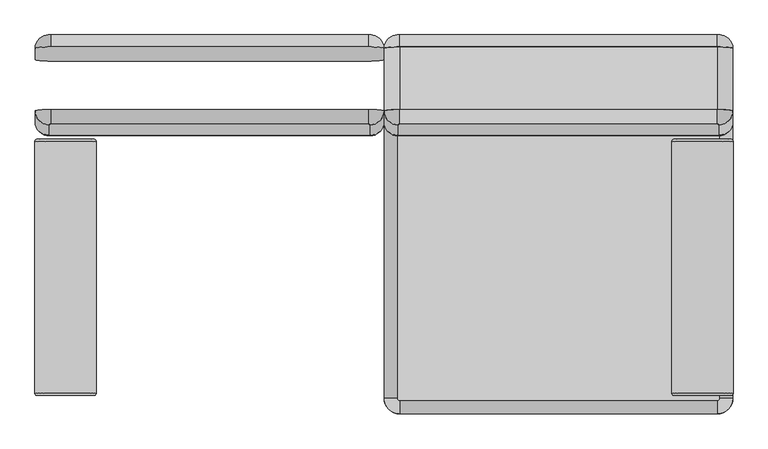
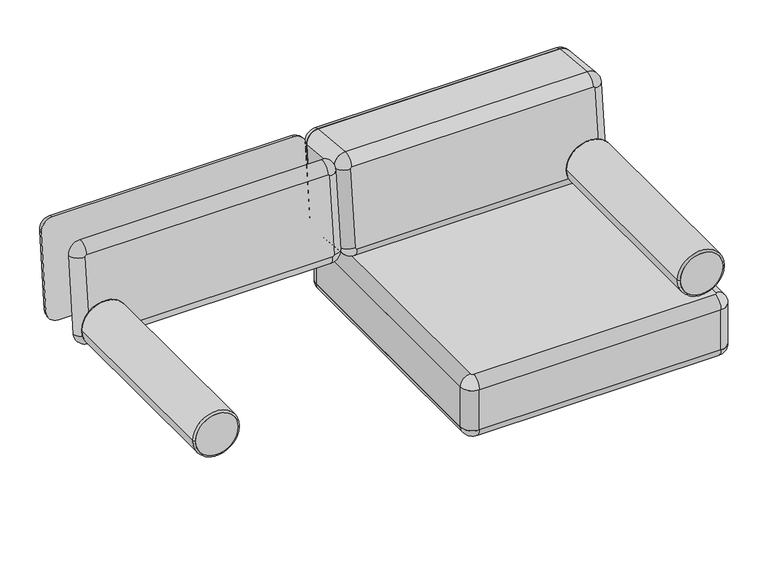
"""IFC4 building model written with IfcOpenShell, lengths in millimetres: furniture geometry, Sofa_Bensen_Lite_LIT200IT : Sofa_Bensen_Lite_LIT200IT."""

from ifc_helpers import new_model, si_unit, point, frame, frame_2d, origin, place, context, project, spatial, polyline, circle_curve, ellipse_curve, trimmed, segment, composite_curve, outline, extrude, source, transform, mapped, element, save
from ifc_brep_helpers import plane_surface, cylinder_surface, revolved_surface, advanced_brep


def furniture_adbb1229(model_context):
    return source(origin(), model_context, "Body", "SolidModel", [
        advanced_brep(
        [(770.4022766, -440.0, 513.8049987), (644.4022766, -440.0, 513.8049987), (644.4022766, 120.0, 513.8049987), (770.4022766, 120.0, 513.8049987), (644.4022766, -445.0, 513.8049987), (639.4022766, -440.0, 513.8049987), (775.4022766, -440.0, 513.8049987), (770.4022766, -445.0, 513.8049987), (639.4022766, 120.0, 513.8049987), (775.4022766, 120.0, 513.8049987), (644.4022766, 125.0, 513.8049987), (770.4022766, 125.0, 513.8049987)],
        [
            (0, 1, circle_curve(frame((707.4022766, -440.0, 513.8049987), z_axis=(0.0, -1.0, 0.0), x_axis=(-1.0, 0.0, 0.0)), 63.0)),
            (1, 0, circle_curve(frame((707.4022766, -440.0, 513.8049987), z_axis=(0.0, -1.0, 0.0), x_axis=(1.0, 0.0, 0.0)), 63.0)),
            (2, 3, circle_curve(frame((707.4022766, 120.0, 513.8049987), z_axis=(0.0, 1.0, 0.0), x_axis=(-1.0, 0.0, 0.0)), 63.0)),
            (3, 2, circle_curve(frame((707.4022766, 120.0, 513.8049987), z_axis=(0.0, 1.0, 0.0), x_axis=(1.0, 0.0, 0.0)), 63.0)),
            (4, 5, circle_curve(frame((644.4022766, -440.0, 513.8049987), z_axis=(0.0, 0.0, -1.0), x_axis=(0.0, -1.0, 0.0)), 5.0)),
            (5, 6, circle_curve(frame((707.4022766, -440.0, 513.8049987), z_axis=(0.0, -1.0, 0.0), x_axis=(1.0, 0.0, 0.0)), 68.0)),
            (6, 7, circle_curve(frame((770.4022766, -440.0, 513.8049987), z_axis=(0.0, 0.0, -1.0), x_axis=(0.0, -1.0, 0.0)), 5.0)),
            (7, 4, circle_curve(frame((707.4022766, -445.0, 513.8049987), z_axis=(0.0, 1.0, 0.0), x_axis=(1.0, 0.0, 0.0)), 63.0)),
            (7, 0),
            (1, 4),
            (6, 5, circle_curve(frame((707.4022766, -440.0, 513.8049987), z_axis=(0.0, -1.0, 0.0), x_axis=(-1.0, 0.0, 0.0)), 68.0)),
            (4, 7, circle_curve(frame((707.4022766, -445.0, 513.8049987), z_axis=(0.0, 1.0, 0.0), x_axis=(-1.0, 0.0, 0.0)), 63.0)),
            (5, 8),
            (8, 9, circle_curve(frame((707.4022766, 120.0, 513.8049987), z_axis=(0.0, -1.0, 0.0), x_axis=(-1.0, 0.0, 0.0)), 68.0)),
            (9, 6),
            (9, 8, circle_curve(frame((707.4022766, 120.0, 513.8049987), z_axis=(0.0, -1.0, 0.0), x_axis=(-1.0, 0.0, 0.0)), 68.0)),
            (10, 2),
            (3, 11),
            (11, 10, circle_curve(frame((707.4022766, 125.0, 513.8049987), z_axis=(0.0, 1.0, 0.0), x_axis=(1.0, 0.0, 0.0)), 63.0)),
            (11, 9, circle_curve(frame((770.4022766, 120.0, 513.8049987), z_axis=(0.0, 0.0, -1.0), x_axis=(0.0, 1.0, 0.0)), 5.0)),
            (8, 10, circle_curve(frame((644.4022766, 120.0, 513.8049987), z_axis=(0.0, 0.0, -1.0), x_axis=(0.0, 1.0, 0.0)), 5.0)),
            (10, 11, circle_curve(frame((707.4022766, 125.0, 513.8049987), z_axis=(0.0, 1.0, 0.0), x_axis=(-1.0, 0.0, 0.0)), 63.0)),
        ],
        [
            plane_surface(frame((639.4022766, -440.0, 513.8049987), z_axis=(0.0, -1.0, 0.0), x_axis=(0.0, 0.0, 1.0))),
            plane_surface(frame((639.4022766, 120.0, 513.8049987), z_axis=(0.0, 1.0, 0.0), x_axis=(0.0, 0.0, -1.0))),
            revolved_surface(trimmed(ellipse_curve(frame((770.4022766, -440.0, 513.8049987), z_axis=(0.0, 0.0, -1.0), x_axis=(0.0, -1.0, 0.0)), 5.0, 5.0), [point((775.4022766, -440.0, 513.8049987))], [point((770.4022766, -445.0, 513.8049987))], True, "CARTESIAN"), (707.4022766, -155.0, 513.8049987), (0.0, -1.0, 0.0)),
            revolved_surface(polyline([(770.4022766, -445.0, 513.8049987), (770.4022766, -440.0, 513.8049987)]), (707.4022766, -155.0, 513.8049987), (0.0, -1.0, 0.0)),
            revolved_surface(trimmed(ellipse_curve(frame((644.4022766, -440.0, 513.8049987), z_axis=(0.0, 0.0, 1.0), x_axis=(0.0, -1.0, 0.0)), 5.0, 5.0), [point((639.4022766, -440.0, 513.8049987))], [point((644.4022766, -445.0, 513.8049987))], True, "CARTESIAN"), (707.4022766, -155.0, 513.8049987), (0.0, -1.0, 0.0)),
            revolved_surface(polyline([(644.4022766, -445.0, 513.8049987), (644.4022766, -440.0, 513.8049987)]), (707.4022766, -155.0, 513.8049987), (0.0, -1.0, 0.0)),
            cylinder_surface(frame((707.4022766, 120.0, 513.8049987), z_axis=(0.0, -1.0, 0.0), x_axis=(-1.0, 0.0, 0.0)), 68.0),
            revolved_surface(polyline([(770.4022766, 120.0, 513.8049987), (770.4022766, 125.0, 513.8049987)]), (707.4022766, -165.0, 513.8049987), (0.0, -1.0, 0.0)),
            revolved_surface(trimmed(ellipse_curve(frame((770.4022766, 120.0, 513.8049987), z_axis=(0.0, 0.0, -1.0), x_axis=(0.0, 1.0, 0.0)), 5.0, 5.0), [point((770.4022766, 125.0, 513.8049987))], [point((775.4022766, 120.0, 513.8049987))], True, "CARTESIAN"), (707.4022766, -165.0, 513.8049987), (0.0, -1.0, 0.0)),
            revolved_surface(polyline([(644.4022766, 120.0, 513.8049987), (644.4022766, 125.0, 513.8049987)]), (707.4022766, -165.0, 513.8049987), (0.0, -1.0, 0.0)),
            revolved_surface(trimmed(ellipse_curve(frame((644.4022766, 120.0, 513.8049987), z_axis=(0.0, 0.0, 1.0), x_axis=(0.0, 1.0, 0.0)), 5.0, 5.0), [point((644.4022766, 125.0, 513.8049987))], [point((639.4022766, 120.0, 513.8049987))], True, "CARTESIAN"), (707.4022766, -165.0, 513.8049987), (0.0, -1.0, 0.0)),
        ],
        [
            (0, [[1, 2]]),
            (1, [[3, 4]]),
            (2, [[5, 6, 7, 8]]),
            (3, [[9, -2, 10, -8]]),
            (4, [[11, -5, 12, -7]]),
            (5, [[-12, -10, -1, -9]]),
            (6, [[-6, 13, 14, 15]]),
            (6, [[16, -13, -11, -15]]),
            (7, [[17, -4, 18, 19]]),
            (8, [[20, -14, 21, -19]]),
            (9, [[-3, -17, 22, -18]]),
            (10, [[-22, -21, -16, -20]]),
        ],
    ),
        extrude(outline(composite_curve([segment(trimmed(circle_curve(frame_2d((513.8049987, 707.4022766)), 63.0), [point((513.8049987, 770.4022766))], [point((513.8049987, 644.4022766))], False, "CARTESIAN"), True, "CONTINUOUS"), segment(trimmed(circle_curve(frame_2d((513.8049987, 707.4022766)), 63.0), [point((513.8049987, 644.4022766))], [point((513.8049987, 770.4022766))], False, "CARTESIAN"), True, "CONTINUOUS")], self_intersect=False)), frame((0.0, 120.0, 0.0), z_axis=(0.0, 1.0, 0.0), x_axis=(0.0, 0.0, 1.0)), (0.0, 0.0, 1.0), 5.0),
        extrude(outline(composite_curve([segment(trimmed(circle_curve(frame_2d((513.8049987, 707.4022766)), 63.0), [point((513.8049987, 644.4022766))], [point((513.8049987, 770.4022766))], False, "CARTESIAN"), True, "CONTINUOUS"), segment(trimmed(circle_curve(frame_2d((513.8049987, 707.4022766)), 63.0), [point((513.8049987, 770.4022766))], [point((513.8049987, 644.4022766))], False, "CARTESIAN"), True, "CONTINUOUS")], self_intersect=False)), frame((0.0, -445.0, 0.0), z_axis=(0.0, 1.0, 0.0), x_axis=(0.0, 0.0, 1.0)), (0.0, 0.0, 1.0), 5.0),
        advanced_brep(
        [(-770.4022766, -440.0, 513.8049987), (-644.4022766, -440.0, 513.8049987), (-644.4022766, 120.0, 513.8049987), (-770.4022766, 120.0, 513.8049987), (-644.4022766, -445.0, 513.8049987), (-770.4022766, -445.0, 513.8049987), (-775.4022766, -440.0, 513.8049987), (-639.4022766, -440.0, 513.8049987), (-775.4022766, 120.0, 513.8049987), (-639.4022766, 120.0, 513.8049987), (-644.4022766, 125.0, 513.8049987), (-770.4022766, 125.0, 513.8049987)],
        [
            (0, 1, circle_curve(frame((-707.4022766, -440.0, 513.8049987), z_axis=(0.0, -1.0, 0.0), x_axis=(-1.0, 0.0, 0.0)), 63.0)),
            (1, 0, circle_curve(frame((-707.4022766, -440.0, 513.8049987), z_axis=(0.0, -1.0, 0.0), x_axis=(1.0, 0.0, 0.0)), 63.0)),
            (2, 3, circle_curve(frame((-707.4022766, 120.0, 513.8049987), z_axis=(0.0, 1.0, 0.0), x_axis=(-1.0, 0.0, 0.0)), 63.0)),
            (3, 2, circle_curve(frame((-707.4022766, 120.0, 513.8049987), z_axis=(0.0, 1.0, 0.0), x_axis=(1.0, 0.0, 0.0)), 63.0)),
            (4, 5, circle_curve(frame((-707.4022766, -445.0, 513.8049987), z_axis=(0.0, 1.0, 0.0), x_axis=(-1.0, 0.0, 0.0)), 63.0)),
            (5, 6, circle_curve(frame((-770.4022766, -440.0, 513.8049987), z_axis=(0.0, 0.0, -1.0), x_axis=(0.0, -1.0, 0.0)), 5.0)),
            (6, 7, circle_curve(frame((-707.4022766, -440.0, 513.8049987), z_axis=(0.0, -1.0, 0.0), x_axis=(-1.0, 0.0, 0.0)), 68.0)),
            (7, 4, circle_curve(frame((-644.4022766, -440.0, 513.8049987), z_axis=(0.0, 0.0, -1.0), x_axis=(0.0, -1.0, 0.0)), 5.0)),
            (4, 1),
            (0, 5),
            (5, 4, circle_curve(frame((-707.4022766, -445.0, 513.8049987), z_axis=(0.0, 1.0, 0.0), x_axis=(1.0, 0.0, 0.0)), 63.0)),
            (7, 6, circle_curve(frame((-707.4022766, -440.0, 513.8049987), z_axis=(0.0, -1.0, 0.0), x_axis=(1.0, 0.0, 0.0)), 68.0)),
            (6, 8),
            (8, 9, circle_curve(frame((-707.4022766, 120.0, 513.8049987), z_axis=(0.0, -1.0, 0.0), x_axis=(1.0, 0.0, 0.0)), 68.0)),
            (9, 7),
            (9, 8, circle_curve(frame((-707.4022766, 120.0, 513.8049987), z_axis=(0.0, -1.0, 0.0), x_axis=(1.0, 0.0, 0.0)), 68.0)),
            (10, 11, circle_curve(frame((-707.4022766, 125.0, 513.8049987), z_axis=(0.0, 1.0, 0.0), x_axis=(-1.0, 0.0, 0.0)), 63.0)),
            (11, 3),
            (2, 10),
            (10, 9, circle_curve(frame((-644.4022766, 120.0, 513.8049987), z_axis=(0.0, 0.0, -1.0), x_axis=(0.0, 1.0, 0.0)), 5.0)),
            (8, 11, circle_curve(frame((-770.4022766, 120.0, 513.8049987), z_axis=(0.0, 0.0, -1.0), x_axis=(0.0, 1.0, 0.0)), 5.0)),
            (11, 10, circle_curve(frame((-707.4022766, 125.0, 513.8049987), z_axis=(0.0, 1.0, 0.0), x_axis=(1.0, 0.0, 0.0)), 63.0)),
        ],
        [
            plane_surface(frame((-639.4022766, -440.0, 513.8049987), z_axis=(0.0, -1.0, 0.0), x_axis=(0.0, 0.0, 1.0))),
            plane_surface(frame((-639.4022766, 120.0, 513.8049987), z_axis=(0.0, 1.0, 0.0), x_axis=(0.0, 0.0, -1.0))),
            revolved_surface(trimmed(ellipse_curve(frame((-770.4022766, -440.0, 513.8049987), z_axis=(0.0, 0.0, 1.0), x_axis=(0.0, -1.0, 0.0)), 5.0, 5.0), [point((-775.4022766, -440.0, 513.8049987))], [point((-770.4022766, -445.0, 513.8049987))], True, "CARTESIAN"), (-707.4022766, -155.0, 513.8049987), (0.0, -1.0, 0.0)),
            revolved_surface(polyline([(-770.4022766, -445.0, 513.8049987), (-770.4022766, -440.0, 513.8049987)]), (-707.4022766, -155.0, 513.8049987), (0.0, -1.0, 0.0)),
            revolved_surface(trimmed(ellipse_curve(frame((-644.4022766, -440.0, 513.8049987), z_axis=(0.0, 0.0, -1.0), x_axis=(0.0, -1.0, 0.0)), 5.0, 5.0), [point((-639.4022766, -440.0, 513.8049987))], [point((-644.4022766, -445.0, 513.8049987))], True, "CARTESIAN"), (-707.4022766, -155.0, 513.8049987), (0.0, -1.0, 0.0)),
            revolved_surface(polyline([(-644.4022766, -445.0, 513.8049987), (-644.4022766, -440.0, 513.8049987)]), (-707.4022766, -155.0, 513.8049987), (0.0, -1.0, 0.0)),
            cylinder_surface(frame((-707.4022766, 120.0, 513.8049987), z_axis=(0.0, -1.0, 0.0), x_axis=(1.0, 0.0, 0.0)), 68.0),
            revolved_surface(polyline([(-770.4022766, 120.0, 513.8049987), (-770.4022766, 125.0, 513.8049987)]), (-707.4022766, -165.0, 513.8049987), (0.0, -1.0, 0.0)),
            revolved_surface(trimmed(ellipse_curve(frame((-770.4022766, 120.0, 513.8049987), z_axis=(0.0, 0.0, 1.0), x_axis=(0.0, 1.0, 0.0)), 5.0, 5.0), [point((-770.4022766, 125.0, 513.8049987))], [point((-775.4022766, 120.0, 513.8049987))], True, "CARTESIAN"), (-707.4022766, -165.0, 513.8049987), (0.0, -1.0, 0.0)),
            revolved_surface(polyline([(-644.4022766, 120.0, 513.8049987), (-644.4022766, 125.0, 513.8049987)]), (-707.4022766, -165.0, 513.8049987), (0.0, -1.0, 0.0)),
            revolved_surface(trimmed(ellipse_curve(frame((-644.4022766, 120.0, 513.8049987), z_axis=(0.0, 0.0, -1.0), x_axis=(0.0, 1.0, 0.0)), 5.0, 5.0), [point((-644.4022766, 125.0, 513.8049987))], [point((-639.4022766, 120.0, 513.8049987))], True, "CARTESIAN"), (-707.4022766, -165.0, 513.8049987), (0.0, -1.0, 0.0)),
        ],
        [
            (0, [[1, 2]]),
            (1, [[3, 4]]),
            (2, [[5, 6, 7, 8]]),
            (3, [[-5, 9, -1, 10]]),
            (4, [[-6, 11, -8, 12]]),
            (5, [[-10, -2, -9, -11]]),
            (6, [[13, 14, 15, -7]]),
            (6, [[-13, -12, -15, 16]]),
            (7, [[17, 18, -3, 19]]),
            (8, [[-17, 20, -14, 21]]),
            (9, [[-18, 22, -19, -4]]),
            (10, [[-21, -16, -20, -22]]),
        ],
    ),
        extrude(outline(composite_curve([segment(trimmed(circle_curve(frame_2d((513.8049987, -707.4022766)), 63.0), [point((513.8049987, -770.4022766))], [point((513.8049987, -644.4022766))], False, "CARTESIAN"), True, "CONTINUOUS"), segment(trimmed(circle_curve(frame_2d((513.8049987, -707.4022766)), 63.0), [point((513.8049987, -644.4022766))], [point((513.8049987, -770.4022766))], False, "CARTESIAN"), True, "CONTINUOUS")], self_intersect=False)), frame((0.0, 120.0, 0.0), z_axis=(0.0, 1.0, 0.0), x_axis=(0.0, 0.0, 1.0)), (0.0, 0.0, 1.0), 5.0),
        extrude(outline(composite_curve([segment(trimmed(circle_curve(frame_2d((513.8049987, -707.4022766)), 63.0), [point((513.8049987, -644.4022766))], [point((513.8049987, -770.4022766))], False, "CARTESIAN"), True, "CONTINUOUS"), segment(trimmed(circle_curve(frame_2d((513.8049987, -707.4022766)), 63.0), [point((513.8049987, -770.4022766))], [point((513.8049987, -644.4022766))], False, "CARTESIAN"), True, "CONTINUOUS")], self_intersect=False)), frame((0.0, -445.0, 0.0), z_axis=(0.0, 1.0, 0.0), x_axis=(0.0, 0.0, 1.0)), (0.0, 0.0, 1.0), 5.0),
        advanced_brep(
        [(740.0, 330.2036921, 725.306006), (35.0, 330.2036921, 725.306006), (0.0, 326.5451959, 690.4977397), (0.0, 302.5036494, 461.7577038), (35.0, 298.8451531, 426.9494374), (740.0, 298.8451531, 426.9494374), (775.0, 302.5036494, 461.7577038), (775.0, 326.5451959, 690.4977397), (745.0, 356.3808528, 687.3618858), (745.0, 332.3393062, 458.6218499), (740.0, 331.8166639, 453.6492404), (35.0, 331.8166639, 453.6492404), (30.0, 332.3393062, 458.6218499), (30.0, 356.3808528, 687.3618858), (35.0, 356.9034951, 692.3344953), (740.0, 356.9034951, 692.3344953)],
        [
            (0, 1),
            (1, 2, circle_curve(frame((35.0, 326.5451959, 690.4977397), z_axis=(0.0, -0.9945218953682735, 0.10452846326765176), x_axis=(0.0, 0.10452846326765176, 0.9945218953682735)), 35.0)),
            (2, 3),
            (3, 4, circle_curve(frame((35.0, 302.5036494, 461.7577038), z_axis=(0.0, -0.9945218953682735, 0.10452846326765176), x_axis=(-1.0, 0.0, 0.0)), 35.0)),
            (4, 5),
            (5, 6, circle_curve(frame((740.0, 302.5036494, 461.7577038), z_axis=(0.0, -0.9945218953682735, 0.10452846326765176), x_axis=(0.0, -0.10452846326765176, -0.9945218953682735)), 35.0)),
            (6, 7),
            (7, 0, circle_curve(frame((740.0, 326.5451959, 690.4977397), z_axis=(0.0, -0.9945218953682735, 0.10452846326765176), x_axis=(1.0, 0.0, 0.0)), 35.0)),
            (8, 9),
            (9, 10, circle_curve(frame((740.0, 332.3393062, 458.6218499), z_axis=(0.0, 0.9945218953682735, -0.10452846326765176), x_axis=(0.0, -0.10452846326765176, -0.9945218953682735)), 5.0)),
            (10, 11),
            (11, 12, circle_curve(frame((35.0, 332.3393062, 458.6218499), z_axis=(0.0, 0.9945218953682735, -0.10452846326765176), x_axis=(-1.0, 0.0, 0.0)), 5.0)),
            (12, 13),
            (13, 14, circle_curve(frame((35.0, 356.3808528, 687.3618858), z_axis=(0.0, 0.9945218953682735, -0.10452846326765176), x_axis=(0.0, 0.10452846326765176, 0.9945218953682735)), 5.0)),
            (14, 15),
            (15, 8, circle_curve(frame((740.0, 356.3808528, 687.3618858), z_axis=(0.0, 0.9945218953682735, -0.10452846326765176), x_axis=(1.0, 0.0, 0.0)), 5.0)),
            (15, 0, circle_curve(frame((740.0, 327.0678382, 695.4703492), z_axis=(1.0, 0.0, 0.0), x_axis=(0.0, 0.10452846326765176, 0.9945218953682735)), 30.0)),
            (7, 8, circle_curve(frame((745.0, 326.5451959, 690.4977397), z_axis=(0.0, 0.10452846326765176, 0.9945218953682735), x_axis=(1.0, 0.0, 0.0)), 30.0)),
            (14, 1, circle_curve(frame((35.0, 327.0678382, 695.4703492), z_axis=(1.0, 0.0, 0.0), x_axis=(0.0, 0.10452846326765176, 0.9945218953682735)), 30.0)),
            (13, 2, circle_curve(frame((30.0, 326.5451959, 690.4977397), z_axis=(0.0, 0.10452846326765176, 0.9945218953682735), x_axis=(-1.0, 0.0, 0.0)), 30.0)),
            (12, 3, circle_curve(frame((30.0, 302.5036494, 461.7577038), z_axis=(0.0, 0.10452846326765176, 0.9945218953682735), x_axis=(-1.0, 0.0, 0.0)), 30.0)),
            (11, 4, circle_curve(frame((35.0, 301.981007, 456.7850943), z_axis=(-1.0, 0.0, 0.0), x_axis=(0.0, -0.10452846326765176, -0.9945218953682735)), 30.0)),
            (10, 5, circle_curve(frame((740.0, 301.981007, 456.7850943), z_axis=(-1.0, 0.0, 0.0), x_axis=(0.0, -0.10452846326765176, -0.9945218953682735)), 30.0)),
            (9, 6, circle_curve(frame((745.0, 302.5036494, 461.7577038), z_axis=(0.0, -0.10452846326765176, -0.9945218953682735), x_axis=(1.0, 0.0, 0.0)), 30.0)),
        ],
        [
            plane_surface(frame((740.0, 303.0262917, 466.7303133), z_axis=(0.0, -0.9945218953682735, 0.10452846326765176), x_axis=(1.0, 0.0, 0.0))),
            plane_surface(frame((740.0, 332.8619485, 463.5944594), z_axis=(0.0, 0.9945218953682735, -0.10452846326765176), x_axis=(-1.0, 0.0, 0.0))),
            revolved_surface(trimmed(ellipse_curve(frame((745.0, 326.5451959, 690.4977397), z_axis=(0.0, 0.10452846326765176, 0.9945218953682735), x_axis=(1.0, 0.0, 0.0)), 30.0, 30.0), [point((775.0, 326.5451959, 690.4977397))], [point((745.0, 356.3808528, 687.3618858))], True, "CARTESIAN"), (740.0, 326.5451959, 690.4977397), (0.0, 0.9945218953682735, -0.10452846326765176)),
            cylinder_surface(frame((740.0, 327.0678382, 695.4703492), z_axis=(1.0, 0.0, 0.0), x_axis=(0.0, 0.10452846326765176, 0.9945218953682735)), 30.0),
            revolved_surface(trimmed(ellipse_curve(frame((35.0, 327.0678382, 695.4703492), z_axis=(-1.0, 0.0, 0.0), x_axis=(0.0, 0.10452846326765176, 0.9945218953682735)), 30.0, 30.0), [point((35.0, 330.2036921, 725.306006))], [point((35.0, 356.9034951, 692.3344953))], True, "CARTESIAN"), (35.0, 326.5451959, 690.4977397), (0.0, 0.9945218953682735, -0.10452846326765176)),
            cylinder_surface(frame((30.0, 326.5451959, 690.4977397), z_axis=(0.0, 0.10452846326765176, 0.9945218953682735), x_axis=(-1.0, 0.0, 0.0)), 30.0),
            revolved_surface(trimmed(ellipse_curve(frame((30.0, 302.5036494, 461.7577038), z_axis=(0.0, -0.10452846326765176, -0.9945218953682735), x_axis=(-1.0, 0.0, 0.0)), 30.0, 30.0), [point((0.0, 302.5036494, 461.7577038))], [point((30.0, 332.3393062, 458.6218499))], True, "CARTESIAN"), (35.0, 302.5036494, 461.7577038), (0.0, 0.9945218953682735, -0.10452846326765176)),
            cylinder_surface(frame((35.0, 301.981007, 456.7850943), z_axis=(-1.0, 0.0, 0.0), x_axis=(0.0, -0.10452846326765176, -0.9945218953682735)), 30.0),
            revolved_surface(trimmed(ellipse_curve(frame((740.0, 301.981007, 456.7850943), z_axis=(1.0, 0.0, 0.0), x_axis=(0.0, -0.10452846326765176, -0.9945218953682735)), 30.0, 30.0), [point((740.0, 298.8451531, 426.9494374))], [point((740.0, 331.8166639, 453.6492404))], True, "CARTESIAN"), (740.0, 302.5036494, 461.7577038), (0.0, 0.9945218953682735, -0.10452846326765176)),
            cylinder_surface(frame((745.0, 302.5036494, 461.7577038), z_axis=(0.0, -0.10452846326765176, -0.9945218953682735), x_axis=(1.0, 0.0, 0.0)), 30.0),
        ],
        [
            (0, [[1, 2, 3, 4, 5, 6, 7, 8]]),
            (1, [[9, 10, 11, 12, 13, 14, 15, 16]]),
            (2, [[-16, 17, -8, 18]]),
            (3, [[-15, 19, -1, -17]]),
            (4, [[-14, 20, -2, -19]]),
            (5, [[-13, 21, -3, -20]]),
            (6, [[-12, 22, -4, -21]]),
            (7, [[-11, 23, -5, -22]]),
            (8, [[-10, 24, -6, -23]]),
            (9, [[-7, -24, -9, -18]]),
        ],
    ),
        advanced_brep(
        [(740.0, 190.9706268, 739.9399909), (740.0, 157.999116, 713.2401879), (745.0, 157.4764737, 708.2675785), (775.0, 187.3121306, 705.1317246), (35.0, 190.9706268, 739.9399909), (35.0, 157.999116, 713.2401879), (0.0, 187.3121306, 705.1317246), (30.0, 157.4764737, 708.2675785), (0.0, 163.270584, 476.3916886), (30.0, 133.4349271, 479.5275425), (35.0, 159.6120878, 441.5834223), (35.0, 132.9122848, 474.5549331), (740.0, 159.6120878, 441.5834223), (740.0, 132.9122848, 474.5549331), (775.0, 163.270584, 476.3916886), (745.0, 133.4349271, 479.5275425)],
        [
            (0, 1, circle_curve(frame((740.0, 187.8347729, 710.104334), z_axis=(1.0, 0.0, 0.0), x_axis=(0.0, 0.10452846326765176, 0.9945218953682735)), 30.0)),
            (1, 2, circle_curve(frame((740.0, 157.4764737, 708.2675785), z_axis=(0.0, 0.9945218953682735, -0.10452846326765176), x_axis=(1.0, 0.0, 0.0)), 5.0)),
            (2, 3, circle_curve(frame((745.0, 187.3121306, 705.1317246), z_axis=(0.0, 0.10452846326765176, 0.9945218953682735), x_axis=(1.0, 0.0, 0.0)), 30.0)),
            (3, 0, circle_curve(frame((740.0, 187.3121306, 705.1317246), z_axis=(0.0, -0.9945218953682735, 0.10452846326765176), x_axis=(1.0, 0.0, 0.0)), 35.0)),
            (0, 4),
            (4, 5, circle_curve(frame((35.0, 187.8347729, 710.104334), z_axis=(1.0, 0.0, 0.0), x_axis=(0.0, 0.10452846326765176, 0.9945218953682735)), 30.0)),
            (5, 1),
            (4, 6, circle_curve(frame((35.0, 187.3121306, 705.1317246), z_axis=(0.0, -0.9945218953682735, 0.10452846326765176), x_axis=(0.0, 0.10452846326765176, 0.9945218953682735)), 35.0)),
            (6, 7, circle_curve(frame((30.0, 187.3121306, 705.1317246), z_axis=(0.0, 0.10452846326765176, 0.9945218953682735), x_axis=(-1.0, 0.0, 0.0)), 30.0)),
            (7, 5, circle_curve(frame((35.0, 157.4764737, 708.2675785), z_axis=(0.0, 0.9945218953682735, -0.10452846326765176), x_axis=(0.0, 0.10452846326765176, 0.9945218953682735)), 5.0)),
            (6, 8),
            (8, 9, circle_curve(frame((30.0, 163.270584, 476.3916886), z_axis=(0.0, 0.10452846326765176, 0.9945218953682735), x_axis=(-1.0, 0.0, 0.0)), 30.0)),
            (9, 7),
            (8, 10, circle_curve(frame((35.0, 163.270584, 476.3916886), z_axis=(0.0, -0.9945218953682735, 0.10452846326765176), x_axis=(-1.0, 0.0, 0.0)), 35.0)),
            (10, 11, circle_curve(frame((35.0, 162.7479417, 471.4190792), z_axis=(-1.0, 0.0, 0.0), x_axis=(0.0, -0.10452846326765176, -0.9945218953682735)), 30.0)),
            (11, 9, circle_curve(frame((35.0, 133.4349271, 479.5275425), z_axis=(0.0, 0.9945218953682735, -0.10452846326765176), x_axis=(-1.0, 0.0, 0.0)), 5.0)),
            (10, 12),
            (12, 13, circle_curve(frame((740.0, 162.7479417, 471.4190792), z_axis=(-1.0, 0.0, 0.0), x_axis=(0.0, -0.10452846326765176, -0.9945218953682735)), 30.0)),
            (13, 11),
            (12, 14, circle_curve(frame((740.0, 163.270584, 476.3916886), z_axis=(0.0, -0.9945218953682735, 0.10452846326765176), x_axis=(0.0, -0.10452846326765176, -0.9945218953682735)), 35.0)),
            (14, 15, circle_curve(frame((745.0, 163.270584, 476.3916886), z_axis=(0.0, -0.10452846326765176, -0.9945218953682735), x_axis=(1.0, 0.0, 0.0)), 30.0)),
            (15, 13, circle_curve(frame((740.0, 133.4349271, 479.5275425), z_axis=(0.0, 0.9945218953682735, -0.10452846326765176), x_axis=(0.0, -0.10452846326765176, -0.9945218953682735)), 5.0)),
            (2, 15),
            (14, 3),
        ],
        [
            revolved_surface(trimmed(ellipse_curve(frame((745.0, 187.3121306, 705.1317246), z_axis=(0.0, 0.10452846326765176, 0.9945218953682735), x_axis=(1.0, 0.0, 0.0)), 30.0, 30.0), [point((745.0, 157.4764737, 708.2675785))], [point((775.0, 187.3121306, 705.1317246))], True, "CARTESIAN"), (740.0, 356.3808528, 687.3618858), (0.0, 0.9945218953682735, -0.10452846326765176)),
            cylinder_surface(frame((740.0, 187.8347729, 710.104334), z_axis=(1.0, 0.0, 0.0), x_axis=(0.0, 0.10452846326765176, 0.9945218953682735)), 30.0),
            revolved_surface(trimmed(ellipse_curve(frame((35.0, 187.8347729, 710.104334), z_axis=(-1.0, 0.0, 0.0), x_axis=(0.0, 0.10452846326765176, 0.9945218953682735)), 30.0, 30.0), [point((35.0, 157.999116, 713.2401879))], [point((35.0, 190.9706268, 739.9399909))], True, "CARTESIAN"), (35.0, 356.3808528, 687.3618858), (0.0, 0.9945218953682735, -0.10452846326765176)),
            cylinder_surface(frame((30.0, 187.3121306, 705.1317246), z_axis=(0.0, 0.10452846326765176, 0.9945218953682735), x_axis=(-1.0, 0.0, 0.0)), 30.0),
            revolved_surface(trimmed(ellipse_curve(frame((30.0, 163.270584, 476.3916886), z_axis=(0.0, -0.10452846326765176, -0.9945218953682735), x_axis=(-1.0, 0.0, 0.0)), 30.0, 30.0), [point((30.0, 133.4349271, 479.5275425))], [point((0.0, 163.270584, 476.3916886))], True, "CARTESIAN"), (35.0, 332.3393062, 458.6218499), (0.0, 0.9945218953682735, -0.10452846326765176)),
            cylinder_surface(frame((35.0, 162.7479417, 471.4190792), z_axis=(-1.0, 0.0, 0.0), x_axis=(0.0, -0.10452846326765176, -0.9945218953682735)), 30.0),
            revolved_surface(trimmed(ellipse_curve(frame((740.0, 162.7479417, 471.4190792), z_axis=(1.0, 0.0, 0.0), x_axis=(0.0, -0.10452846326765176, -0.9945218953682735)), 30.0, 30.0), [point((740.0, 132.9122848, 474.5549331))], [point((740.0, 159.6120878, 441.5834223))], True, "CARTESIAN"), (740.0, 332.3393062, 458.6218499), (0.0, 0.9945218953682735, -0.10452846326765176)),
            cylinder_surface(frame((745.0, 163.270584, 476.3916886), z_axis=(0.0, -0.10452846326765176, -0.9945218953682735), x_axis=(1.0, 0.0, 0.0)), 30.0),
            plane_surface(frame((775.0, 163.270584, 476.3916886), z_axis=(0.0, 0.9945218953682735, -0.10452846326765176), x_axis=(0.0, 0.10452846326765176, 0.9945218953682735))),
            plane_surface(frame((740.0, 133.9575695, 484.500152), z_axis=(0.0, -0.9945218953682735, 0.10452846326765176), x_axis=(1.0, 0.0, 0.0))),
        ],
        [
            (0, [[1, 2, 3, 4]]),
            (1, [[5, 6, 7, -1]]),
            (2, [[8, 9, 10, -6]]),
            (3, [[11, 12, 13, -9]]),
            (4, [[14, 15, 16, -12]]),
            (5, [[17, 18, 19, -15]]),
            (6, [[20, 21, 22, -18]]),
            (7, [[23, -21, 24, -3]]),
            (8, [[-24, -20, -17, -14, -11, -8, -5, -4]]),
            (9, [[-7, -10, -13, -16, -19, -22, -23, -2]]),
        ],
    ),
        extrude(outline(composite_curve([segment(trimmed(circle_curve(frame_2d((0.0, 35.0)), 35.0), [point((-35.0, 35.0))], [point((0.0, 70.0))], False, "CARTESIAN"), True, "CONTINUOUS"), segment(polyline([(0.0, 70.0), (705.0, 70.0)]), True, "CONTINUOUS"), segment(trimmed(circle_curve(frame_2d((705.0, 35.0)), 35.0), [point((705.0, 70.0))], [point((740.0, 35.0))], False, "CARTESIAN"), True, "CONTINUOUS"), segment(polyline([(740.0, 35.0), (740.0, -195.0)]), True, "CONTINUOUS"), segment(trimmed(circle_curve(frame_2d((705.0, -195.0)), 35.0), [point((740.0, -195.0))], [point((705.0, -230.0))], False, "CARTESIAN"), True, "CONTINUOUS"), segment(polyline([(705.0, -230.0), (0.0, -230.0)]), True, "CONTINUOUS"), segment(trimmed(circle_curve(frame_2d((0.0, -195.0)), 35.0), [point((0.0, -230.0))], [point((-35.0, -195.0))], False, "CARTESIAN"), True, "CONTINUOUS"), segment(polyline([(-35.0, -195.0), (-35.0, 35.0)]), True, "CONTINUOUS")], self_intersect=False)), frame((740.0, 306.1621456, 496.5659701), z_axis=(0.0, -0.9945218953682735, 0.10452846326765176), x_axis=(-1.0, 0.0, 0.0)), (0.0, 0.0, 1.0), 140.0),
        advanced_brep(
        [(35.0, -455.7516759, 445.4976523), (740.0, -455.7516759, 445.4976523), (745.0, -450.7516759, 445.4976523), (745.0, 279.2483241, 445.4976523), (740.0, 284.2483241, 445.4976523), (35.0, 284.2483241, 445.4976523), (30.0, 279.2483241, 445.4976523), (30.0, -450.7516759, 445.4976523), (0.0, -450.7516759, 415.4976523), (0.0, 279.2483241, 415.4976523), (35.0, 314.2483241, 415.4976523), (740.0, 314.2483241, 415.4976523), (775.0, 279.2483241, 415.4976523), (775.0, -450.7516759, 415.4976523), (740.0, -485.7516759, 415.4976523), (35.0, -485.7516759, 415.4976523)],
        [
            (0, 1),
            (1, 2, circle_curve(frame((740.0, -450.7516759, 445.4976523), z_axis=(0.0, 0.0, 1.0), x_axis=(0.0, -1.0, 0.0)), 5.0)),
            (2, 3),
            (3, 4, circle_curve(frame((740.0, 279.2483241, 445.4976523), z_axis=(0.0, 0.0, 1.0), x_axis=(1.0, 0.0, 0.0)), 5.0)),
            (4, 5),
            (5, 6, circle_curve(frame((35.0, 279.2483241, 445.4976523), z_axis=(0.0, 0.0, 1.0), x_axis=(0.0, 1.0, 0.0)), 5.0)),
            (6, 7),
            (7, 0, circle_curve(frame((35.0, -450.7516759, 445.4976523), z_axis=(0.0, 0.0, 1.0), x_axis=(-1.0, 0.0, 0.0)), 5.0)),
            (8, 9),
            (9, 10, circle_curve(frame((35.0, 279.2483241, 415.4976523), z_axis=(0.0, 0.0, -1.0), x_axis=(0.0, 1.0, 0.0)), 35.0)),
            (10, 11),
            (11, 12, circle_curve(frame((740.0, 279.2483241, 415.4976523), z_axis=(0.0, 0.0, -1.0), x_axis=(1.0, 0.0, 0.0)), 35.0)),
            (12, 13),
            (13, 14, circle_curve(frame((740.0, -450.7516759, 415.4976523), z_axis=(0.0, 0.0, -1.0), x_axis=(0.0, -1.0, 0.0)), 35.0)),
            (14, 15),
            (15, 8, circle_curve(frame((35.0, -450.7516759, 415.4976523), z_axis=(0.0, 0.0, -1.0), x_axis=(-1.0, 0.0, 0.0)), 35.0)),
            (15, 0, circle_curve(frame((35.0, -455.7516759, 415.4976523), z_axis=(-1.0, 0.0, 0.0), x_axis=(0.0, -1.0, 0.0)), 30.0)),
            (7, 8, circle_curve(frame((30.0, -450.7516759, 415.4976523), z_axis=(0.0, -1.0, 0.0), x_axis=(-1.0, 0.0, 0.0)), 30.0)),
            (14, 1, circle_curve(frame((740.0, -455.7516759, 415.4976523), z_axis=(-1.0, 0.0, 0.0), x_axis=(0.0, -1.0, 0.0)), 30.0)),
            (13, 2, circle_curve(frame((745.0, -450.7516759, 415.4976523), z_axis=(0.0, -1.0, 0.0), x_axis=(1.0, 0.0, 0.0)), 30.0)),
            (12, 3, circle_curve(frame((745.0, 279.2483241, 415.4976523), z_axis=(0.0, -1.0, 0.0), x_axis=(1.0, 0.0, 0.0)), 30.0)),
            (11, 4, circle_curve(frame((740.0, 284.2483241, 415.4976523), z_axis=(1.0, 0.0, 0.0), x_axis=(0.0, 1.0, 0.0)), 30.0)),
            (10, 5, circle_curve(frame((35.0, 284.2483241, 415.4976523), z_axis=(1.0, 0.0, 0.0), x_axis=(0.0, 1.0, 0.0)), 30.0)),
            (9, 6, circle_curve(frame((30.0, 279.2483241, 415.4976523), z_axis=(0.0, 1.0, 0.0), x_axis=(-1.0, 0.0, 0.0)), 30.0)),
        ],
        [
            plane_surface(frame((35.0, 274.2483241, 445.4976523), z_axis=(0.0, 0.0, 1.0), x_axis=(-1.0, 0.0, 0.0))),
            plane_surface(frame((35.0, 274.2483241, 415.4976523), z_axis=(0.0, 0.0, -1.0), x_axis=(1.0, 0.0, 0.0))),
            revolved_surface(trimmed(ellipse_curve(frame((30.0, -450.7516759, 415.4976523), z_axis=(0.0, -1.0, 0.0), x_axis=(-1.0, 0.0, 0.0)), 30.0, 30.0), [point((30.0, -450.7516759, 445.4976523))], [point((0.0, -450.7516759, 415.4976523))], True, "CARTESIAN"), (35.0, -450.7516759, 245.4976523), (0.0, 0.0, -1.0)),
            cylinder_surface(frame((35.0, -455.7516759, 415.4976523), z_axis=(-1.0, 0.0, 0.0), x_axis=(0.0, -1.0, 0.0)), 30.0),
            revolved_surface(trimmed(ellipse_curve(frame((740.0, -455.7516759, 415.4976523), z_axis=(1.0, 0.0, 0.0), x_axis=(0.0, -1.0, 0.0)), 30.0, 30.0), [point((740.0, -455.7516759, 445.4976523))], [point((740.0, -485.7516759, 415.4976523))], True, "CARTESIAN"), (740.0, -450.7516759, 245.4976523), (0.0, 0.0, -1.0)),
            cylinder_surface(frame((745.0, -450.7516759, 415.4976523), z_axis=(0.0, -1.0, 0.0), x_axis=(1.0, 0.0, 0.0)), 30.0),
            revolved_surface(trimmed(ellipse_curve(frame((745.0, 279.2483241, 415.4976523), z_axis=(0.0, 1.0, 0.0), x_axis=(1.0, 0.0, 0.0)), 30.0, 30.0), [point((745.0, 279.2483241, 445.4976523))], [point((775.0, 279.2483241, 415.4976523))], True, "CARTESIAN"), (740.0, 279.2483241, 245.4976523), (0.0, 0.0, -1.0)),
            cylinder_surface(frame((740.0, 284.2483241, 415.4976523), z_axis=(1.0, 0.0, 0.0), x_axis=(0.0, 1.0, 0.0)), 30.0),
            revolved_surface(trimmed(ellipse_curve(frame((35.0, 284.2483241, 415.4976523), z_axis=(-1.0, 0.0, 0.0), x_axis=(0.0, 1.0, 0.0)), 30.0, 30.0), [point((35.0, 284.2483241, 445.4976523))], [point((35.0, 314.2483241, 415.4976523))], True, "CARTESIAN"), (35.0, 279.2483241, 245.4976523), (0.0, 0.0, -1.0)),
            cylinder_surface(frame((30.0, 279.2483241, 415.4976523), z_axis=(0.0, 1.0, 0.0), x_axis=(-1.0, 0.0, 0.0)), 30.0),
        ],
        [
            (0, [[1, 2, 3, 4, 5, 6, 7, 8]]),
            (1, [[9, 10, 11, 12, 13, 14, 15, 16]]),
            (2, [[17, -8, 18, -16]]),
            (3, [[-15, 19, -1, -17]]),
            (4, [[-14, 20, -2, -19]]),
            (5, [[-13, 21, -3, -20]]),
            (6, [[-12, 22, -4, -21]]),
            (7, [[-11, 23, -5, -22]]),
            (8, [[-10, 24, -6, -23]]),
            (9, [[-7, -24, -9, -18]]),
        ],
    ),
        advanced_brep(
        [(35.0, -485.7516759, 291.4976523), (740.0, -485.7516759, 291.4976523), (775.0, -450.7516759, 291.4976523), (775.0, 279.2483241, 291.4976523), (740.0, 314.2483241, 291.4976523), (35.0, 314.2483241, 291.4976523), (0.0, 279.2483241, 291.4976523), (0.0, -450.7516759, 291.4976523), (30.0, -450.7516759, 261.4976523), (30.0, 279.2483241, 261.4976523), (35.0, 284.2483241, 261.4976523), (740.0, 284.2483241, 261.4976523), (745.0, 279.2483241, 261.4976523), (745.0, -450.7516759, 261.4976523), (740.0, -455.7516759, 261.4976523), (35.0, -455.7516759, 261.4976523)],
        [
            (0, 1),
            (1, 2, circle_curve(frame((740.0, -450.7516759, 291.4976523), z_axis=(0.0, 0.0, 1.0), x_axis=(0.0, -1.0, 0.0)), 35.0)),
            (2, 3),
            (3, 4, circle_curve(frame((740.0, 279.2483241, 291.4976523), z_axis=(0.0, 0.0, 1.0), x_axis=(1.0, 0.0, 0.0)), 35.0)),
            (4, 5),
            (5, 6, circle_curve(frame((35.0, 279.2483241, 291.4976523), z_axis=(0.0, 0.0, 1.0), x_axis=(0.0, 1.0, 0.0)), 35.0)),
            (6, 7),
            (7, 0, circle_curve(frame((35.0, -450.7516759, 291.4976523), z_axis=(0.0, 0.0, 1.0), x_axis=(-1.0, 0.0, 0.0)), 35.0)),
            (8, 9),
            (9, 10, circle_curve(frame((35.0, 279.2483241, 261.4976523), z_axis=(0.0, 0.0, -1.0), x_axis=(0.0, 1.0, 0.0)), 5.0)),
            (10, 11),
            (11, 12, circle_curve(frame((740.0, 279.2483241, 261.4976523), z_axis=(0.0, 0.0, -1.0), x_axis=(1.0, 0.0, 0.0)), 5.0)),
            (12, 13),
            (13, 14, circle_curve(frame((740.0, -450.7516759, 261.4976523), z_axis=(0.0, 0.0, -1.0), x_axis=(0.0, -1.0, 0.0)), 5.0)),
            (14, 15),
            (15, 8, circle_curve(frame((35.0, -450.7516759, 261.4976523), z_axis=(0.0, 0.0, -1.0), x_axis=(-1.0, 0.0, 0.0)), 5.0)),
            (15, 0, circle_curve(frame((35.0, -455.7516759, 291.4976523), z_axis=(-1.0, 0.0, 0.0), x_axis=(0.0, -1.0, 0.0)), 30.0)),
            (7, 8, circle_curve(frame((30.0, -450.7516759, 291.4976523), z_axis=(0.0, -1.0, 0.0), x_axis=(-1.0, 0.0, 0.0)), 30.0)),
            (14, 1, circle_curve(frame((740.0, -455.7516759, 291.4976523), z_axis=(-1.0, 0.0, 0.0), x_axis=(0.0, -1.0, 0.0)), 30.0)),
            (13, 2, circle_curve(frame((745.0, -450.7516759, 291.4976523), z_axis=(0.0, -1.0, 0.0), x_axis=(1.0, 0.0, 0.0)), 30.0)),
            (12, 3, circle_curve(frame((745.0, 279.2483241, 291.4976523), z_axis=(0.0, -1.0, 0.0), x_axis=(1.0, 0.0, 0.0)), 30.0)),
            (11, 4, circle_curve(frame((740.0, 284.2483241, 291.4976523), z_axis=(1.0, 0.0, 0.0), x_axis=(0.0, 1.0, 0.0)), 30.0)),
            (10, 5, circle_curve(frame((35.0, 284.2483241, 291.4976523), z_axis=(1.0, 0.0, 0.0), x_axis=(0.0, 1.0, 0.0)), 30.0)),
            (9, 6, circle_curve(frame((30.0, 279.2483241, 291.4976523), z_axis=(0.0, 1.0, 0.0), x_axis=(-1.0, 0.0, 0.0)), 30.0)),
        ],
        [
            plane_surface(frame((35.0, 274.2483241, 291.4976523), z_axis=(0.0, 0.0, 1.0), x_axis=(-1.0, 0.0, 0.0))),
            plane_surface(frame((35.0, 274.2483241, 261.4976523), z_axis=(0.0, 0.0, -1.0), x_axis=(1.0, 0.0, 0.0))),
            revolved_surface(trimmed(ellipse_curve(frame((30.0, -450.7516759, 291.4976523), z_axis=(0.0, -1.0, 0.0), x_axis=(-1.0, 0.0, 0.0)), 30.0, 30.0), [point((0.0, -450.7516759, 291.4976523))], [point((30.0, -450.7516759, 261.4976523))], True, "CARTESIAN"), (35.0, -450.7516759, 291.4976523), (0.0, 0.0, -1.0)),
            cylinder_surface(frame((35.0, -455.7516759, 291.4976523), z_axis=(-1.0, 0.0, 0.0), x_axis=(0.0, -1.0, 0.0)), 30.0),
            revolved_surface(trimmed(ellipse_curve(frame((740.0, -455.7516759, 291.4976523), z_axis=(1.0, 0.0, 0.0), x_axis=(0.0, -1.0, 0.0)), 30.0, 30.0), [point((740.0, -485.7516759, 291.4976523))], [point((740.0, -455.7516759, 261.4976523))], True, "CARTESIAN"), (740.0, -450.7516759, 291.4976523), (0.0, 0.0, -1.0)),
            cylinder_surface(frame((745.0, -450.7516759, 291.4976523), z_axis=(0.0, -1.0, 0.0), x_axis=(1.0, 0.0, 0.0)), 30.0),
            revolved_surface(trimmed(ellipse_curve(frame((745.0, 279.2483241, 291.4976523), z_axis=(0.0, 1.0, 0.0), x_axis=(1.0, 0.0, 0.0)), 30.0, 30.0), [point((775.0, 279.2483241, 291.4976523))], [point((745.0, 279.2483241, 261.4976523))], True, "CARTESIAN"), (740.0, 279.2483241, 291.4976523), (0.0, 0.0, -1.0)),
            cylinder_surface(frame((740.0, 284.2483241, 291.4976523), z_axis=(1.0, 0.0, 0.0), x_axis=(0.0, 1.0, 0.0)), 30.0),
            revolved_surface(trimmed(ellipse_curve(frame((35.0, 284.2483241, 291.4976523), z_axis=(-1.0, 0.0, 0.0), x_axis=(0.0, 1.0, 0.0)), 30.0, 30.0), [point((35.0, 314.2483241, 291.4976523))], [point((35.0, 284.2483241, 261.4976523))], True, "CARTESIAN"), (35.0, 279.2483241, 291.4976523), (0.0, 0.0, -1.0)),
            cylinder_surface(frame((30.0, 279.2483241, 291.4976523), z_axis=(0.0, 1.0, 0.0), x_axis=(-1.0, 0.0, 0.0)), 30.0),
        ],
        [
            (0, [[1, 2, 3, 4, 5, 6, 7, 8]]),
            (1, [[9, 10, 11, 12, 13, 14, 15, 16]]),
            (2, [[-16, 17, -8, 18]]),
            (3, [[-15, 19, -1, -17]]),
            (4, [[-14, 20, -2, -19]]),
            (5, [[-13, 21, -3, -20]]),
            (6, [[-12, 22, -4, -21]]),
            (7, [[-11, 23, -5, -22]]),
            (8, [[-10, 24, -6, -23]]),
            (9, [[-7, -24, -9, -18]]),
        ],
    ),
        extrude(outline(composite_curve([segment(trimmed(circle_curve(frame_2d((35.0, 279.2483241)), 35.0), [point((0.0, 279.2483241))], [point((35.0, 314.2483241))], False, "CARTESIAN"), True, "CONTINUOUS"), segment(polyline([(35.0, 314.2483241), (740.0, 314.2483241)]), True, "CONTINUOUS"), segment(trimmed(circle_curve(frame_2d((740.0, 279.2483241)), 35.0), [point((740.0, 314.2483241))], [point((775.0, 279.2483241))], False, "CARTESIAN"), True, "CONTINUOUS"), segment(polyline([(775.0, 279.2483241), (775.0, -450.7516759)]), True, "CONTINUOUS"), segment(trimmed(circle_curve(frame_2d((740.0, -450.7516759)), 35.0), [point((775.0, -450.7516759))], [point((740.0, -485.7516759))], False, "CARTESIAN"), True, "CONTINUOUS"), segment(polyline([(740.0, -485.7516759), (35.0, -485.7516759)]), True, "CONTINUOUS"), segment(trimmed(circle_curve(frame_2d((35.0, -450.7516759)), 35.0), [point((35.0, -485.7516759))], [point((0.0, -450.7516759))], False, "CARTESIAN"), True, "CONTINUOUS"), segment(polyline([(0.0, -450.7516759), (0.0, 279.2483241)]), True, "CONTINUOUS")], self_intersect=False)), frame((0.0, 0.0, 291.4976523), z_axis=(0.0, 0.0, 1.0), x_axis=(1.0, 0.0, 0.0)), (0.0, 0.0, 1.0), 124.0),
        advanced_brep(
        [(-740.0, 330.2036921, 725.306006), (-775.0, 326.5451959, 690.4977397), (-775.0, 302.5036494, 461.7577038), (-740.0, 298.8451531, 426.9494374), (-35.0, 298.8451531, 426.9494374), (0.0, 302.5036494, 461.7577038), (0.0, 326.5451959, 690.4977397), (-35.0, 330.2036921, 725.306006), (-745.0, 356.3808528, 687.3618858), (-740.0, 356.9034951, 692.3344953), (-35.0, 356.9034951, 692.3344953), (-30.0, 356.3808528, 687.3618858), (-30.0, 332.3393062, 458.6218499), (-35.0, 331.8166639, 453.6492404), (-740.0, 331.8166639, 453.6492404), (-745.0, 332.3393062, 458.6218499)],
        [
            (0, 1, circle_curve(frame((-740.0, 326.5451959, 690.4977397), z_axis=(0.0, -0.9945218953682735, 0.10452846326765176), x_axis=(-1.0, 0.0, 0.0)), 35.0)),
            (1, 2),
            (2, 3, circle_curve(frame((-740.0, 302.5036494, 461.7577038), z_axis=(0.0, -0.9945218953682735, 0.10452846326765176), x_axis=(0.0, -0.10452846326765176, -0.9945218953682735)), 35.0)),
            (3, 4),
            (4, 5, circle_curve(frame((-35.0, 302.5036494, 461.7577038), z_axis=(0.0, -0.9945218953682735, 0.10452846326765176), x_axis=(1.0, 0.0, 0.0)), 35.0)),
            (5, 6),
            (6, 7, circle_curve(frame((-35.0, 326.5451959, 690.4977397), z_axis=(0.0, -0.9945218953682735, 0.10452846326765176), x_axis=(0.0, 0.10452846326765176, 0.9945218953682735)), 35.0)),
            (7, 0),
            (8, 9, circle_curve(frame((-740.0, 356.3808528, 687.3618858), z_axis=(0.0, 0.9945218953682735, -0.10452846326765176), x_axis=(-1.0, 0.0, 0.0)), 5.0)),
            (9, 10),
            (10, 11, circle_curve(frame((-35.0, 356.3808528, 687.3618858), z_axis=(0.0, 0.9945218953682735, -0.10452846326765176), x_axis=(0.0, 0.10452846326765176, 0.9945218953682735)), 5.0)),
            (11, 12),
            (12, 13, circle_curve(frame((-35.0, 332.3393062, 458.6218499), z_axis=(0.0, 0.9945218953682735, -0.10452846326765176), x_axis=(1.0, 0.0, 0.0)), 5.0)),
            (13, 14),
            (14, 15, circle_curve(frame((-740.0, 332.3393062, 458.6218499), z_axis=(0.0, 0.9945218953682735, -0.10452846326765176), x_axis=(0.0, -0.10452846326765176, -0.9945218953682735)), 5.0)),
            (15, 8),
            (8, 1, circle_curve(frame((-745.0, 326.5451959, 690.4977397), z_axis=(0.0, 0.10452846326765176, 0.9945218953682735), x_axis=(-1.0, 0.0, 0.0)), 30.0)),
            (0, 9, circle_curve(frame((-740.0, 327.0678382, 695.4703492), z_axis=(-1.0, 0.0, 0.0), x_axis=(0.0, 0.10452846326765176, 0.9945218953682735)), 30.0)),
            (7, 10, circle_curve(frame((-35.0, 327.0678382, 695.4703492), z_axis=(-1.0, 0.0, 0.0), x_axis=(0.0, 0.10452846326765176, 0.9945218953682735)), 30.0)),
            (6, 11, circle_curve(frame((-30.0, 326.5451959, 690.4977397), z_axis=(0.0, 0.10452846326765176, 0.9945218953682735), x_axis=(1.0, 0.0, 0.0)), 30.0)),
            (5, 12, circle_curve(frame((-30.0, 302.5036494, 461.7577038), z_axis=(0.0, 0.10452846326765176, 0.9945218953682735), x_axis=(1.0, 0.0, 0.0)), 30.0)),
            (4, 13, circle_curve(frame((-35.0, 301.981007, 456.7850943), z_axis=(1.0, 0.0, 0.0), x_axis=(0.0, -0.10452846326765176, -0.9945218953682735)), 30.0)),
            (3, 14, circle_curve(frame((-740.0, 301.981007, 456.7850943), z_axis=(1.0, 0.0, 0.0), x_axis=(0.0, -0.10452846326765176, -0.9945218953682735)), 30.0)),
            (2, 15, circle_curve(frame((-745.0, 302.5036494, 461.7577038), z_axis=(0.0, -0.10452846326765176, -0.9945218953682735), x_axis=(-1.0, 0.0, 0.0)), 30.0)),
        ],
        [
            plane_surface(frame((-740.0, 303.0262917, 466.7303133), z_axis=(0.0, -0.9945218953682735, 0.10452846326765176), x_axis=(-1.0, 0.0, 0.0))),
            plane_surface(frame((-740.0, 332.8619485, 463.5944594), z_axis=(0.0, 0.9945218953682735, -0.10452846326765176), x_axis=(1.0, 0.0, 0.0))),
            revolved_surface(trimmed(ellipse_curve(frame((-745.0, 326.5451959, 690.4977397), z_axis=(0.0, -0.10452846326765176, -0.9945218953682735), x_axis=(-1.0, 0.0, 0.0)), 30.0, 30.0), [point((-775.0, 326.5451959, 690.4977397))], [point((-745.0, 356.3808528, 687.3618858))], True, "CARTESIAN"), (-740.0, 326.5451959, 690.4977397), (0.0, 0.9945218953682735, -0.10452846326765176)),
            cylinder_surface(frame((-740.0, 327.0678382, 695.4703492), z_axis=(-1.0, 0.0, 0.0), x_axis=(0.0, 0.10452846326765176, 0.9945218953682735)), 30.0),
            revolved_surface(trimmed(ellipse_curve(frame((-35.0, 327.0678382, 695.4703492), z_axis=(-1.0, 0.0, 0.0), x_axis=(0.0, 0.10452846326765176, 0.9945218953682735)), 30.0, 30.0), [point((-35.0, 330.2036921, 725.306006))], [point((-35.0, 356.9034951, 692.3344953))], True, "CARTESIAN"), (-35.0, 326.5451959, 690.4977397), (0.0, 0.9945218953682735, -0.10452846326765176)),
            cylinder_surface(frame((-30.0, 326.5451959, 690.4977397), z_axis=(0.0, 0.10452846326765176, 0.9945218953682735), x_axis=(1.0, 0.0, 0.0)), 30.0),
            revolved_surface(trimmed(ellipse_curve(frame((-30.0, 302.5036494, 461.7577038), z_axis=(0.0, 0.10452846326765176, 0.9945218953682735), x_axis=(1.0, 0.0, 0.0)), 30.0, 30.0), [point((0.0, 302.5036494, 461.7577038))], [point((-30.0, 332.3393062, 458.6218499))], True, "CARTESIAN"), (-35.0, 302.5036494, 461.7577038), (0.0, 0.9945218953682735, -0.10452846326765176)),
            cylinder_surface(frame((-35.0, 301.981007, 456.7850943), z_axis=(1.0, 0.0, 0.0), x_axis=(0.0, -0.10452846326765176, -0.9945218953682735)), 30.0),
            revolved_surface(trimmed(ellipse_curve(frame((-740.0, 301.981007, 456.7850943), z_axis=(1.0, 0.0, 0.0), x_axis=(0.0, -0.10452846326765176, -0.9945218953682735)), 30.0, 30.0), [point((-740.0, 298.8451531, 426.9494374))], [point((-740.0, 331.8166639, 453.6492404))], True, "CARTESIAN"), (-740.0, 302.5036494, 461.7577038), (0.0, 0.9945218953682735, -0.10452846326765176)),
            cylinder_surface(frame((-745.0, 302.5036494, 461.7577038), z_axis=(0.0, -0.10452846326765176, -0.9945218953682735), x_axis=(-1.0, 0.0, 0.0)), 30.0),
        ],
        [
            (0, [[1, 2, 3, 4, 5, 6, 7, 8]]),
            (1, [[9, 10, 11, 12, 13, 14, 15, 16]]),
            (2, [[17, -1, 18, -9]]),
            (3, [[-18, -8, 19, -10]]),
            (4, [[-19, -7, 20, -11]]),
            (5, [[-20, -6, 21, -12]]),
            (6, [[-21, -5, 22, -13]]),
            (7, [[-22, -4, 23, -14]]),
            (8, [[-23, -3, 24, -15]]),
            (9, [[-17, -16, -24, -2]]),
        ],
    ),
        advanced_brep(
        [(-740.0, 190.9706268, 739.9399909), (-775.0, 187.3121306, 705.1317246), (-745.0, 157.4764737, 708.2675785), (-740.0, 157.999116, 713.2401879), (-35.0, 157.999116, 713.2401879), (-35.0, 190.9706268, 739.9399909), (-30.0, 157.4764737, 708.2675785), (0.0, 187.3121306, 705.1317246), (-30.0, 133.4349271, 479.5275425), (0.0, 163.270584, 476.3916886), (-35.0, 132.9122848, 474.5549331), (-35.0, 159.6120878, 441.5834223), (-740.0, 132.9122848, 474.5549331), (-740.0, 159.6120878, 441.5834223), (-745.0, 133.4349271, 479.5275425), (-775.0, 163.270584, 476.3916886)],
        [
            (0, 1, circle_curve(frame((-740.0, 187.3121306, 705.1317246), z_axis=(0.0, -0.9945218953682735, 0.10452846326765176), x_axis=(-1.0, 0.0, 0.0)), 35.0)),
            (1, 2, circle_curve(frame((-745.0, 187.3121306, 705.1317246), z_axis=(0.0, 0.10452846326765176, 0.9945218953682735), x_axis=(-1.0, 0.0, 0.0)), 30.0)),
            (2, 3, circle_curve(frame((-740.0, 157.4764737, 708.2675785), z_axis=(0.0, 0.9945218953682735, -0.10452846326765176), x_axis=(-1.0, 0.0, 0.0)), 5.0)),
            (3, 0, circle_curve(frame((-740.0, 187.8347729, 710.104334), z_axis=(-1.0, 0.0, 0.0), x_axis=(0.0, 0.10452846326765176, 0.9945218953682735)), 30.0)),
            (3, 4),
            (4, 5, circle_curve(frame((-35.0, 187.8347729, 710.104334), z_axis=(-1.0, 0.0, 0.0), x_axis=(0.0, 0.10452846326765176, 0.9945218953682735)), 30.0)),
            (5, 0),
            (4, 6, circle_curve(frame((-35.0, 157.4764737, 708.2675785), z_axis=(0.0, 0.9945218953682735, -0.10452846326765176), x_axis=(0.0, 0.10452846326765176, 0.9945218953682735)), 5.0)),
            (6, 7, circle_curve(frame((-30.0, 187.3121306, 705.1317246), z_axis=(0.0, 0.10452846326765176, 0.9945218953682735), x_axis=(1.0, 0.0, 0.0)), 30.0)),
            (7, 5, circle_curve(frame((-35.0, 187.3121306, 705.1317246), z_axis=(0.0, -0.9945218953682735, 0.10452846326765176), x_axis=(0.0, 0.10452846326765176, 0.9945218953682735)), 35.0)),
            (6, 8),
            (8, 9, circle_curve(frame((-30.0, 163.270584, 476.3916886), z_axis=(0.0, 0.10452846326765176, 0.9945218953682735), x_axis=(1.0, 0.0, 0.0)), 30.0)),
            (9, 7),
            (8, 10, circle_curve(frame((-35.0, 133.4349271, 479.5275425), z_axis=(0.0, 0.9945218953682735, -0.10452846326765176), x_axis=(1.0, 0.0, 0.0)), 5.0)),
            (10, 11, circle_curve(frame((-35.0, 162.7479417, 471.4190792), z_axis=(1.0, 0.0, 0.0), x_axis=(0.0, -0.10452846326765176, -0.9945218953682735)), 30.0)),
            (11, 9, circle_curve(frame((-35.0, 163.270584, 476.3916886), z_axis=(0.0, -0.9945218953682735, 0.10452846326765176), x_axis=(1.0, 0.0, 0.0)), 35.0)),
            (10, 12),
            (12, 13, circle_curve(frame((-740.0, 162.7479417, 471.4190792), z_axis=(1.0, 0.0, 0.0), x_axis=(0.0, -0.10452846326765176, -0.9945218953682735)), 30.0)),
            (13, 11),
            (12, 14, circle_curve(frame((-740.0, 133.4349271, 479.5275425), z_axis=(0.0, 0.9945218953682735, -0.10452846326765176), x_axis=(0.0, -0.10452846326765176, -0.9945218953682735)), 5.0)),
            (14, 15, circle_curve(frame((-745.0, 163.270584, 476.3916886), z_axis=(0.0, -0.10452846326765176, -0.9945218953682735), x_axis=(-1.0, 0.0, 0.0)), 30.0)),
            (15, 13, circle_curve(frame((-740.0, 163.270584, 476.3916886), z_axis=(0.0, -0.9945218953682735, 0.10452846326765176), x_axis=(0.0, -0.10452846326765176, -0.9945218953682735)), 35.0)),
            (1, 15),
            (14, 2),
        ],
        [
            revolved_surface(trimmed(ellipse_curve(frame((-745.0, 187.3121306, 705.1317246), z_axis=(0.0, -0.10452846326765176, -0.9945218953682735), x_axis=(-1.0, 0.0, 0.0)), 30.0, 30.0), [point((-745.0, 157.4764737, 708.2675785))], [point((-775.0, 187.3121306, 705.1317246))], True, "CARTESIAN"), (-740.0, 356.3808528, 687.3618858), (0.0, 0.9945218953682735, -0.10452846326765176)),
            cylinder_surface(frame((-740.0, 187.8347729, 710.104334), z_axis=(-1.0, 0.0, 0.0), x_axis=(0.0, 0.10452846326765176, 0.9945218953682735)), 30.0),
            revolved_surface(trimmed(ellipse_curve(frame((-35.0, 187.8347729, 710.104334), z_axis=(-1.0, 0.0, 0.0), x_axis=(0.0, 0.10452846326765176, 0.9945218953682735)), 30.0, 30.0), [point((-35.0, 157.999116, 713.2401879))], [point((-35.0, 190.9706268, 739.9399909))], True, "CARTESIAN"), (-35.0, 356.3808528, 687.3618858), (0.0, 0.9945218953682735, -0.10452846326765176)),
            cylinder_surface(frame((-30.0, 187.3121306, 705.1317246), z_axis=(0.0, 0.10452846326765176, 0.9945218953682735), x_axis=(1.0, 0.0, 0.0)), 30.0),
            revolved_surface(trimmed(ellipse_curve(frame((-30.0, 163.270584, 476.3916886), z_axis=(0.0, 0.10452846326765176, 0.9945218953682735), x_axis=(1.0, 0.0, 0.0)), 30.0, 30.0), [point((-30.0, 133.4349271, 479.5275425))], [point((0.0, 163.270584, 476.3916886))], True, "CARTESIAN"), (-35.0, 332.3393062, 458.6218499), (0.0, 0.9945218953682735, -0.10452846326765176)),
            cylinder_surface(frame((-35.0, 162.7479417, 471.4190792), z_axis=(1.0, 0.0, 0.0), x_axis=(0.0, -0.10452846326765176, -0.9945218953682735)), 30.0),
            revolved_surface(trimmed(ellipse_curve(frame((-740.0, 162.7479417, 471.4190792), z_axis=(1.0, 0.0, 0.0), x_axis=(0.0, -0.10452846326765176, -0.9945218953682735)), 30.0, 30.0), [point((-740.0, 132.9122848, 474.5549331))], [point((-740.0, 159.6120878, 441.5834223))], True, "CARTESIAN"), (-740.0, 332.3393062, 458.6218499), (0.0, 0.9945218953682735, -0.10452846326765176)),
            cylinder_surface(frame((-745.0, 163.270584, 476.3916886), z_axis=(0.0, -0.10452846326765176, -0.9945218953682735), x_axis=(-1.0, 0.0, 0.0)), 30.0),
            plane_surface(frame((-775.0, 163.270584, 476.3916886), z_axis=(0.0, 0.9945218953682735, -0.10452846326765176), x_axis=(0.0, 0.10452846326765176, 0.9945218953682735))),
            plane_surface(frame((-740.0, 133.9575695, 484.500152), z_axis=(0.0, -0.9945218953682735, 0.10452846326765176), x_axis=(-1.0, 0.0, 0.0))),
        ],
        [
            (0, [[1, 2, 3, 4]]),
            (1, [[-4, 5, 6, 7]]),
            (2, [[-6, 8, 9, 10]]),
            (3, [[-9, 11, 12, 13]]),
            (4, [[-12, 14, 15, 16]]),
            (5, [[-15, 17, 18, 19]]),
            (6, [[-18, 20, 21, 22]]),
            (7, [[-2, 23, -21, 24]]),
            (8, [[-1, -7, -10, -13, -16, -19, -22, -23]]),
            (9, [[-3, -24, -20, -17, -14, -11, -8, -5]]),
        ],
    ),
    ])


if __name__ == "__main__":
    model = new_model("IFC4")
    model_context = context("Model", 3, world=origin())
    ifc_project = project(units=[si_unit("LENGTHUNIT", "METRE", prefix="MILLI")], contexts=[model_context])
    site = spatial("IfcSite", under=ifc_project)
    building = spatial("IfcBuilding", under=site)
    placement = place(None, origin())
    furniture_shape = furniture_adbb1229(model_context)
    element("IfcFurniture", 1, ObjectType="Sofa_Bensen_Lite_LIT200IT : Sofa_Bensen_Lite_LIT200IT", at=placement, inside=building, context=model_context, shape_type="MappedRepresentation", body=[
        mapped(furniture_shape, transform((0.0, 0.0, 0.0), x_axis=(1.0, 0.0, 0.0), y_axis=(0.0, 1.0, 0.0), z_axis=(0.0, 0.0, 1.0))),
    ])
    save(model, "model.ifc")
